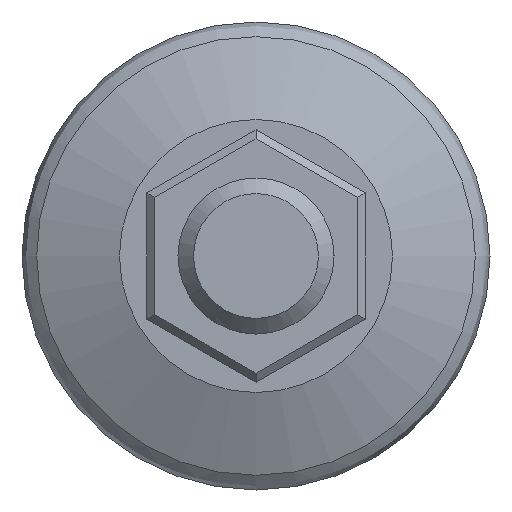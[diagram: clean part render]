
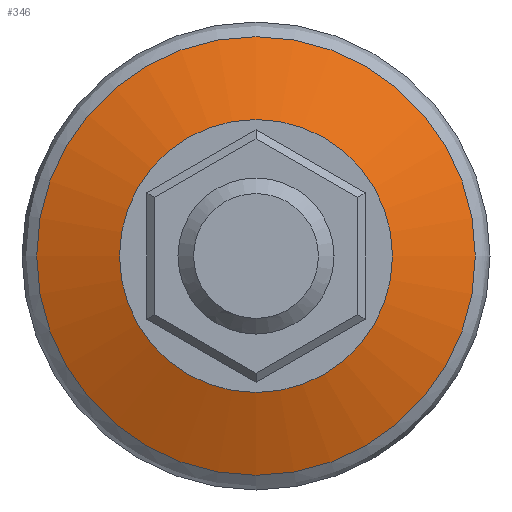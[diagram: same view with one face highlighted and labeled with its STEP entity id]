
A CAD part, left-side view. The second image highlights one B-rep face of the part: STEP entity #346.
In plain terms, the highlighted free-form (B-spline) face has degree [2, 1] with [9, 2] control points.
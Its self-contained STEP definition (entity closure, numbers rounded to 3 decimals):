
#266=CARTESIAN_POINT('',(1271.499,975.645,0.));
#267=VERTEX_POINT('',#266);
#268=CARTESIAN_POINT('',(1271.499,958.145,0.));
#269=VERTEX_POINT('',#268);
#270=CARTESIAN_POINT('',(1271.499,966.895,0.0));
#271=DIRECTION('',(1.0,0.0,0.0));
#272=DIRECTION('',(0.0,-1.0,0.));
#273=AXIS2_PLACEMENT_3D('',#270,#271,#272);
#274=CIRCLE('',#273,8.75);
#275=EDGE_CURVE('',#267,#269,#274,.T.);
#277=CARTESIAN_POINT('',(1271.499,966.895,0.0));
#278=DIRECTION('',(1.0,0.0,0.0));
#279=DIRECTION('',(0.0,-1.0,0.));
#280=AXIS2_PLACEMENT_3D('',#277,#278,#279);
#281=CIRCLE('',#280,8.75);
#282=EDGE_CURVE('',#269,#267,#281,.T.);
#291=CARTESIAN_POINT('',(1271.499,958.145,0.));
#292=CARTESIAN_POINT('',(1271.499,958.145,-8.75));
#293=CARTESIAN_POINT('',(1271.499,966.895,-8.75));
#294=CARTESIAN_POINT('',(1271.499,975.645,-8.75));
#295=CARTESIAN_POINT('',(1271.499,975.645,0.));
#296=CARTESIAN_POINT('',(1271.499,975.645,8.75));
#297=CARTESIAN_POINT('',(1271.499,966.895,8.75));
#298=CARTESIAN_POINT('',(1271.499,958.145,8.75));
#299=CARTESIAN_POINT('',(1271.499,958.145,0.));
#300=CARTESIAN_POINT('',(1273.622,952.838,0.));
#301=CARTESIAN_POINT('',(1273.622,952.838,-14.057));
#302=CARTESIAN_POINT('',(1273.622,966.895,-14.057));
#303=CARTESIAN_POINT('',(1273.622,980.952,-14.057));
#304=CARTESIAN_POINT('',(1273.622,980.952,0.));
#305=CARTESIAN_POINT('',(1273.622,980.952,14.057));
#306=CARTESIAN_POINT('',(1273.622,966.895,14.057));
#307=CARTESIAN_POINT('',(1273.622,952.838,14.057));
#308=CARTESIAN_POINT('',(1273.622,952.838,0.));
#316=(BOUNDED_SURFACE()B_SPLINE_SURFACE(2,1,((#291,#300),(#292,#301),(#293,#302),(#294,#303),(#295,#304),(#296,#305),(#297,#306),(#298,#307),(#299,#308)),.UNSPECIFIED.,.T.,.F.,.U.)B_SPLINE_SURFACE_WITH_KNOTS((3,2,2,2,3),(2,2),(0.0,0.25,0.5,0.75,1.0),(-9.871,-4.155),.UNSPECIFIED.)GEOMETRIC_REPRESENTATION_ITEM()RATIONAL_B_SPLINE_SURFACE(((1.0,1.0),(0.707,0.707),(1.0,1.0),(0.707,0.707),(1.0,1.0),(0.707,0.707),(1.0,1.0),(0.707,0.707),(1.0,1.0)))REPRESENTATION_ITEM('')SURFACE());
#317=ORIENTED_EDGE('',*,*,#282,.T.);
#318=ORIENTED_EDGE('',*,*,#275,.T.);
#319=CARTESIAN_POINT('',(1273.622,952.838,0.));
#320=VERTEX_POINT('',#319);
#321=CARTESIAN_POINT('',(1271.499,958.145,0.));
#322=DIRECTION('',(0.371,-0.928,0.));
#323=VECTOR('',#322,5.716);
#324=LINE('',#321,#323);
#325=EDGE_CURVE('',#269,#320,#324,.T.);
#326=ORIENTED_EDGE('',*,*,#325,.T.);
#327=CARTESIAN_POINT('',(1273.622,980.952,0.));
#328=VERTEX_POINT('',#327);
#329=CARTESIAN_POINT('',(1273.622,966.895,0.0));
#330=DIRECTION('',(1.0,0.0,0.0));
#331=DIRECTION('',(0.0,-1.0,0.));
#332=AXIS2_PLACEMENT_3D('',#329,#330,#331);
#333=CIRCLE('',#332,14.057);
#334=EDGE_CURVE('',#328,#320,#333,.T.);
#335=ORIENTED_EDGE('',*,*,#334,.F.);
#336=CARTESIAN_POINT('',(1273.622,966.895,0.0));
#337=DIRECTION('',(1.0,0.0,0.0));
#338=DIRECTION('',(0.0,-1.0,0.));
#339=AXIS2_PLACEMENT_3D('',#336,#337,#338);
#340=CIRCLE('',#339,14.057);
#341=EDGE_CURVE('',#320,#328,#340,.T.);
#342=ORIENTED_EDGE('',*,*,#341,.F.);
#343=ORIENTED_EDGE('',*,*,#325,.F.);
#344=EDGE_LOOP('',(#317,#318,#326,#335,#342,#343));
#345=FACE_OUTER_BOUND('',#344,.T.);
#346=ADVANCED_FACE('',(#345),#316,.T.);
